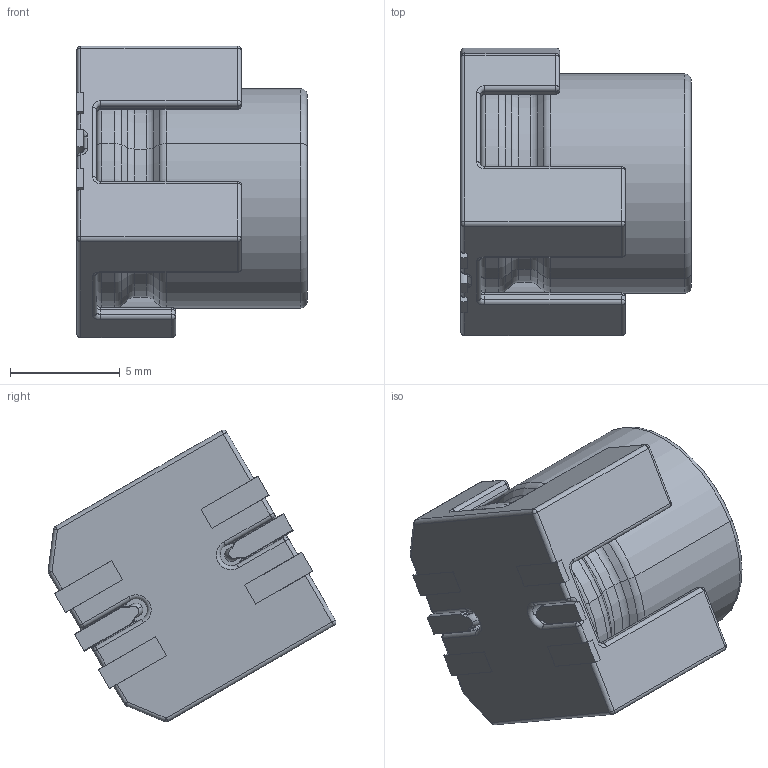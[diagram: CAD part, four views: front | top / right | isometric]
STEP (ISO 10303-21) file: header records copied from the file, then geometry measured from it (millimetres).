
FILE_DESCRIPTION((''),'2;1');
FILE_NAME('LIQUIDSMD10X105_ASM','2020-06-03T',('xy'),(''),'PRO/ENGINEER BY PARAMETRIC TECHNOLOGY CORPORATION, 2009380','PRO/ENGINEER BY PARAMETRIC TECHNOLOGY CORPORATION, 2009380','');
FILE_SCHEMA(('CONFIG_CONTROL_DESIGN'));
Length unit declared in the file: millimetre
Products named in the file (3): LIQUIDSMD10X105; ZB10A; LIQUIDSMD10X105_ASM
Assembly tree (2 placements, depth 2):
  LIQUIDSMD10X105_ASM
    LIQUIDSMD10X105
    ZB10A
Bounding box: 10.51 x 13.12 x 13.3 mm (x, y, z)
Volume: 920.5 mm3; surface area: 928.3 mm2
Topology: 2 solids, 2 shells, 403 faces, 985 edges, 594 vertices
Faces by surface type: plane 191, cylinder 98, torus 55, sphere 32, bspline 23, cone 4
Entity records: 12986 total; most frequent: CARTESIAN_POINT 3461, DIRECTION 2000, ORIENTED_EDGE 1962, EDGE_CURVE 981, AXIS2_PLACEMENT_3D 694, VECTOR 612, LINE 612, VERTEX_POINT 594
